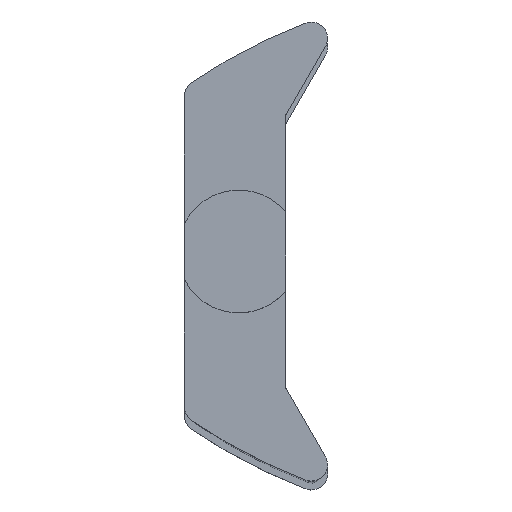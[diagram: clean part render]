
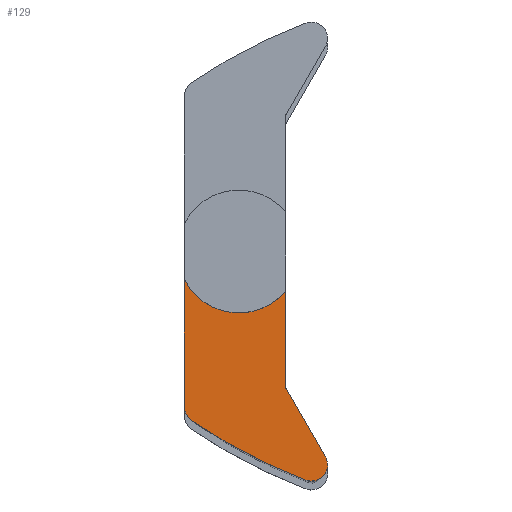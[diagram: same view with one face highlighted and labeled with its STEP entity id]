
A CAD part, top view. The second image highlights one B-rep face of the part: STEP entity #129.
In plain terms, the highlighted planar face has unit normal (0, 0, 1).
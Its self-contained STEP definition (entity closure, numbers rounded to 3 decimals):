
#28 = EDGE_CURVE ( 'NONE', #32, #30, #956, .T. ) ;
#30 = VERTEX_POINT ( 'NONE', #951 ) ;
#31 = EDGE_CURVE ( 'NONE', #161, #32, #950, .T. ) ;
#32 = VERTEX_POINT ( 'NONE', #946 ) ;
#33 = ORIENTED_EDGE ( 'NONE', *, *, #28, .T. ) ;
#129 = ADVANCED_FACE ( 'NONE', ( #1145 ), #1130, .T. ) ;
#130 = EDGE_LOOP ( 'NONE', ( #131, #150, #153, #156, #159, #162, #33, #412 ) ) ;
#131 = ORIENTED_EDGE ( 'NONE', *, *, #132, .F. ) ;
#132 = EDGE_CURVE ( 'NONE', #148, #149, #1181, .T. ) ;
#148 = VERTEX_POINT ( 'NONE', #1211 ) ;
#149 = VERTEX_POINT ( 'NONE', #1210 ) ;
#150 = ORIENTED_EDGE ( 'NONE', *, *, #151, .T. ) ;
#151 = EDGE_CURVE ( 'NONE', #148, #152, #1209, .T. ) ;
#152 = VERTEX_POINT ( 'NONE', #1205 ) ;
#153 = ORIENTED_EDGE ( 'NONE', *, *, #154, .T. ) ;
#154 = EDGE_CURVE ( 'NONE', #152, #155, #1204, .T. ) ;
#155 = VERTEX_POINT ( 'NONE', #1199 ) ;
#156 = ORIENTED_EDGE ( 'NONE', *, *, #157, .T. ) ;
#157 = EDGE_CURVE ( 'NONE', #155, #158, #1198, .T. ) ;
#158 = VERTEX_POINT ( 'NONE', #1193 ) ;
#159 = ORIENTED_EDGE ( 'NONE', *, *, #160, .T. ) ;
#160 = EDGE_CURVE ( 'NONE', #158, #161, #1192, .T. ) ;
#161 = VERTEX_POINT ( 'NONE', #1187 ) ;
#162 = ORIENTED_EDGE ( 'NONE', *, *, #31, .T. ) ;
#412 = ORIENTED_EDGE ( 'NONE', *, *, #413, .T. ) ;
#413 = EDGE_CURVE ( 'NONE', #30, #149, #1752, .T. ) ;
#946 = CARTESIAN_POINT ( 'NONE',  ( 11.922, -33.967, 636. ) ) ;
#947 = DIRECTION ( 'NONE',  ( -0.5, 0.866, 0. ) ) ;
#948 = VECTOR ( 'NONE', #947, 1000. ) ;
#949 = CARTESIAN_POINT ( 'NONE',  ( 21.69, -50.885, 636. ) ) ;
#950 = LINE ( 'NONE', #949, #948 ) ;
#951 = CARTESIAN_POINT ( 'NONE',  ( 11.882, -33.817, 636. ) ) ;
#952 = DIRECTION ( 'NONE',  ( 1., 0., 0. ) ) ;
#953 = DIRECTION ( 'NONE',  ( 0., 0., -1. ) ) ;
#954 = CARTESIAN_POINT ( 'NONE',  ( 12.182, -33.817, 636. ) ) ;
#955 = AXIS2_PLACEMENT_3D ( 'NONE', #954, #953, #952 ) ;
#956 = CIRCLE ( 'NONE', #955, 0.3 ) ;
#1126 = DIRECTION ( 'NONE',  ( 1., 0., 0. ) ) ;
#1127 = DIRECTION ( 'NONE',  ( 0., 0., 1. ) ) ;
#1128 = CARTESIAN_POINT ( 'NONE',  ( 18.226, 52.885, 636. ) ) ;
#1129 = AXIS2_PLACEMENT_3D ( 'NONE', #1128, #1127, #1126 ) ;
#1130 = PLANE ( 'NONE',  #1129 ) ;
#1145 = FACE_OUTER_BOUND ( 'NONE', #130, .T. ) ;
#1177 = DIRECTION ( 'NONE',  ( 1., 0., 0. ) ) ;
#1178 = DIRECTION ( 'NONE',  ( 0., 0., 1. ) ) ;
#1179 = CARTESIAN_POINT ( 'NONE',  ( 0.249, -0.013, 636. ) ) ;
#1180 = AXIS2_PLACEMENT_3D ( 'NONE', #1179, #1178, #1177 ) ;
#1181 = CIRCLE ( 'NONE', #1180, 15.221 ) ;
#1187 = CARTESIAN_POINT ( 'NONE',  ( 21.69, -50.885, 636. ) ) ;
#1188 = DIRECTION ( 'NONE',  ( 1., 0., 0. ) ) ;
#1189 = DIRECTION ( 'NONE',  ( 0., 0., 1. ) ) ;
#1190 = CARTESIAN_POINT ( 'NONE',  ( 18.226, -52.885, 636. ) ) ;
#1191 = AXIS2_PLACEMENT_3D ( 'NONE', #1190, #1189, #1188 ) ;
#1192 = CIRCLE ( 'NONE', #1191, 3.999 ) ;
#1193 = CARTESIAN_POINT ( 'NONE',  ( 16.822, -56.629, 636. ) ) ;
#1194 = DIRECTION ( 'NONE',  ( 1., 0., 0. ) ) ;
#1195 = DIRECTION ( 'NONE',  ( 0., 0., 1. ) ) ;
#1196 = CARTESIAN_POINT ( 'NONE',  ( 62.575, 65.384, 636. ) ) ;
#1197 = AXIS2_PLACEMENT_3D ( 'NONE', #1196, #1195, #1194 ) ;
#1198 = CIRCLE ( 'NONE', #1197, 130.309 ) ;
#1199 = CARTESIAN_POINT ( 'NONE',  ( -11.469, -41.845, 636. ) ) ;
#1200 = DIRECTION ( 'NONE',  ( 1., 0., 0. ) ) ;
#1201 = DIRECTION ( 'NONE',  ( 0., 0., 1. ) ) ;
#1202 = CARTESIAN_POINT ( 'NONE',  ( -9.082, -38.389, 636. ) ) ;
#1203 = AXIS2_PLACEMENT_3D ( 'NONE', #1202, #1201, #1200 ) ;
#1204 = CIRCLE ( 'NONE', #1203, 4.2 ) ;
#1205 = CARTESIAN_POINT ( 'NONE',  ( -13.282, -38.389, 636. ) ) ;
#1206 = DIRECTION ( 'NONE',  ( 0., -1., 0. ) ) ;
#1207 = VECTOR ( 'NONE', #1206, 1000. ) ;
#1208 = CARTESIAN_POINT ( 'NONE',  ( -13.282, 38.389, 636. ) ) ;
#1209 = LINE ( 'NONE', #1208, #1207 ) ;
#1210 = CARTESIAN_POINT ( 'NONE',  ( 11.882, -9.829, 636. ) ) ;
#1211 = CARTESIAN_POINT ( 'NONE',  ( -13.282, -6.983, 636. ) ) ;
#1749 = DIRECTION ( 'NONE',  ( 0., 1., 0. ) ) ;
#1750 = VECTOR ( 'NONE', #1749, 1000. ) ;
#1751 = CARTESIAN_POINT ( 'NONE',  ( 11.882, -33.817, 636. ) ) ;
#1752 = LINE ( 'NONE', #1751, #1750 ) ;
